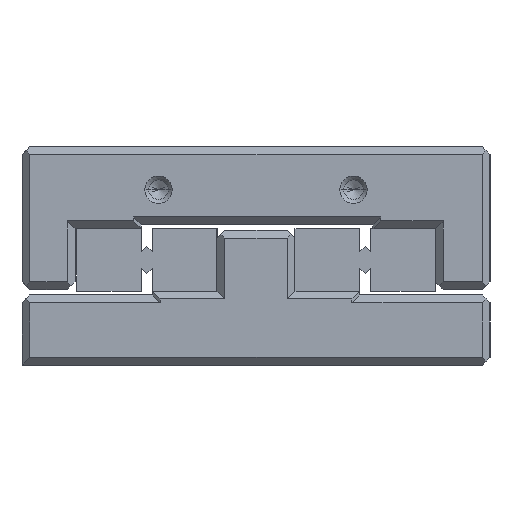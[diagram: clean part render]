
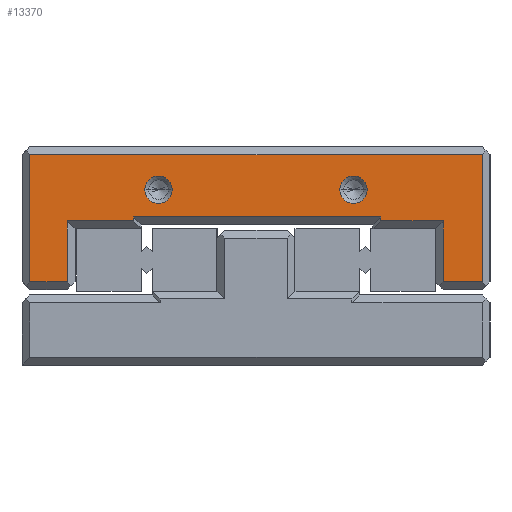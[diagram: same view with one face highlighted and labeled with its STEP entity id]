
A CAD part, left-side view. The second image highlights one B-rep face of the part: STEP entity #13370.
In plain terms, the highlighted planar face has unit normal (-1, 0, 0).
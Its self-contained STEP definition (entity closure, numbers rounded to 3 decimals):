
#10139=CARTESIAN_POINT('',(-77.5,-12.5,5.5));
#10140=DIRECTION('',(1.,0.,0.));
#10141=DIRECTION('',(0.,-1.,0.));
#10142=AXIS2_PLACEMENT_3D('',#10139,#10140,#10141);
#10144=CARTESIAN_POINT('',(-77.5,-12.5,5.5));
#10145=DIRECTION('',(1.,0.,0.));
#10146=DIRECTION('',(0.,1.,0.));
#10147=AXIS2_PLACEMENT_3D('',#10144,#10145,#10146);
#10149=CARTESIAN_POINT('',(-77.5,12.5,5.5));
#10150=DIRECTION('',(1.,0.,0.));
#10151=DIRECTION('',(0.,-1.,0.));
#10152=AXIS2_PLACEMENT_3D('',#10149,#10150,#10151);
#10154=CARTESIAN_POINT('',(-77.5,12.5,5.5));
#10155=DIRECTION('',(1.,0.,0.));
#10156=DIRECTION('',(0.,1.,0.));
#10157=AXIS2_PLACEMENT_3D('',#10154,#10155,#10156);
#10159=DIRECTION('',(0.,0.,-1.));
#10160=VECTOR('',#10159,7.8);
#10161=CARTESIAN_POINT('',(-77.5,-24.2,17.3));
#10162=LINE('',#10161,#10160);
#10163=DIRECTION('',(0.,-1.,0.));
#10164=VECTOR('',#10163,4.8);
#10165=CARTESIAN_POINT('',(-77.5,-24.2,17.3));
#10166=LINE('',#10165,#10164);
#10167=DIRECTION('',(0.,0.,-1.));
#10168=VECTOR('',#10167,16.3);
#10169=CARTESIAN_POINT('',(-77.5,-29.,17.3));
#10170=LINE('',#10169,#10168);
#10171=DIRECTION('',(0.,1.,0.));
#10172=VECTOR('',#10171,58.);
#10173=CARTESIAN_POINT('',(-77.5,-29.,1.));
#10174=LINE('',#10173,#10172);
#10175=DIRECTION('',(0.,0.,-1.));
#10176=VECTOR('',#10175,16.3);
#10177=CARTESIAN_POINT('',(-77.5,29.,17.3));
#10178=LINE('',#10177,#10176);
#10179=DIRECTION('',(0.,-1.,0.));
#10180=VECTOR('',#10179,5.);
#10181=CARTESIAN_POINT('',(-77.5,29.,17.3));
#10182=LINE('',#10181,#10180);
#10183=DIRECTION('',(0.,0.,1.));
#10184=VECTOR('',#10183,7.8);
#10185=CARTESIAN_POINT('',(-77.5,24.,9.5));
#10186=LINE('',#10185,#10184);
#10187=DIRECTION('',(0.,1.,0.));
#10188=VECTOR('',#10187,8.);
#10189=CARTESIAN_POINT('',(-77.5,16.,9.5));
#10190=LINE('',#10189,#10188);
#10191=DIRECTION('',(0.,0.,1.));
#10192=VECTOR('',#10191,0.5);
#10193=CARTESIAN_POINT('',(-77.5,16.,9.));
#10194=LINE('',#10193,#10192);
#10195=DIRECTION('',(0.,1.,0.));
#10196=VECTOR('',#10195,31.7);
#10197=CARTESIAN_POINT('',(-77.5,-15.7,9.));
#10198=LINE('',#10197,#10196);
#10199=DIRECTION('',(0.,0.,-1.));
#10200=VECTOR('',#10199,0.5);
#10201=CARTESIAN_POINT('',(-77.5,-15.7,9.5));
#10202=LINE('',#10201,#10200);
#10203=DIRECTION('',(0.,1.,0.));
#10204=VECTOR('',#10203,8.5);
#10205=CARTESIAN_POINT('',(-77.5,-24.2,9.5));
#10206=LINE('',#10205,#10204);
#11923=CARTESIAN_POINT('',(-77.5,-14.25,5.5));
#11924=CARTESIAN_POINT('',(-77.5,-10.75,5.5));
#11925=VERTEX_POINT('',#11923);
#11926=VERTEX_POINT('',#11924);
#11931=CARTESIAN_POINT('',(-77.5,-29.,1.));
#11932=CARTESIAN_POINT('',(-77.5,29.,1.));
#11933=VERTEX_POINT('',#11931);
#11934=VERTEX_POINT('',#11932);
#11947=CARTESIAN_POINT('',(-77.5,-29.,17.3));
#11948=VERTEX_POINT('',#11947);
#11969=CARTESIAN_POINT('',(-77.5,29.,17.3));
#11970=VERTEX_POINT('',#11969);
#12053=CARTESIAN_POINT('',(-77.5,10.75,5.5));
#12054=CARTESIAN_POINT('',(-77.5,14.25,5.5));
#12055=VERTEX_POINT('',#12053);
#12056=VERTEX_POINT('',#12054);
#12205=CARTESIAN_POINT('',(-77.5,-24.2,17.3));
#12206=VERTEX_POINT('',#12205);
#12207=CARTESIAN_POINT('',(-77.5,-24.2,9.5));
#12208=VERTEX_POINT('',#12207);
#12213=CARTESIAN_POINT('',(-77.5,-15.7,9.5));
#12214=VERTEX_POINT('',#12213);
#12217=CARTESIAN_POINT('',(-77.5,-15.7,9.));
#12218=VERTEX_POINT('',#12217);
#12219=CARTESIAN_POINT('',(-77.5,16.,9.));
#12220=VERTEX_POINT('',#12219);
#12223=CARTESIAN_POINT('',(-77.5,16.,9.5));
#12224=VERTEX_POINT('',#12223);
#12227=CARTESIAN_POINT('',(-77.5,24.,9.5));
#12228=VERTEX_POINT('',#12227);
#12231=CARTESIAN_POINT('',(-77.5,24.,17.3));
#12232=VERTEX_POINT('',#12231);
#13328=CARTESIAN_POINT('',(-77.5,30.,0.));
#13329=DIRECTION('',(-1.,0.,0.));
#13330=DIRECTION('',(0.,-1.,0.));
#13331=AXIS2_PLACEMENT_3D('',#13328,#13329,#13330);
#13332=PLANE('',#13331);
#13334=ORIENTED_EDGE('',*,*,#13333,.F.);
#13336=ORIENTED_EDGE('',*,*,#13335,.T.);
#13338=ORIENTED_EDGE('',*,*,#13337,.T.);
#13339=ORIENTED_EDGE('',*,*,#13315,.T.);
#13341=ORIENTED_EDGE('',*,*,#13340,.F.);
#13343=ORIENTED_EDGE('',*,*,#13342,.T.);
#13345=ORIENTED_EDGE('',*,*,#13344,.F.);
#13347=ORIENTED_EDGE('',*,*,#13346,.F.);
#13349=ORIENTED_EDGE('',*,*,#13348,.F.);
#13351=ORIENTED_EDGE('',*,*,#13350,.F.);
#13353=ORIENTED_EDGE('',*,*,#13352,.F.);
#13355=ORIENTED_EDGE('',*,*,#13354,.F.);
#13356=EDGE_LOOP('',(#13334,#13336,#13338,#13339,#13341,#13343,#13345,#13347,
#13349,#13351,#13353,#13355));
#13357=FACE_OUTER_BOUND('',#13356,.F.);
#13359=ORIENTED_EDGE('',*,*,#13358,.F.);
#13361=ORIENTED_EDGE('',*,*,#13360,.F.);
#13362=EDGE_LOOP('',(#13359,#13361));
#13363=FACE_BOUND('',#13362,.F.);
#13365=ORIENTED_EDGE('',*,*,#13364,.F.);
#13367=ORIENTED_EDGE('',*,*,#13366,.F.);
#13368=EDGE_LOOP('',(#13365,#13367));
#13369=FACE_BOUND('',#13368,.F.);
#13370=ADVANCED_FACE('',(#13357,#13363,#13369),#13332,.T.);
#10143=CIRCLE('',#10142,1.75);
#10148=CIRCLE('',#10147,1.75);
#10153=CIRCLE('',#10152,1.75);
#10158=CIRCLE('',#10157,1.75);
#13315=EDGE_CURVE('',#11933,#11934,#10174,.T.);
#13333=EDGE_CURVE('',#12206,#12208,#10162,.T.);
#13335=EDGE_CURVE('',#12206,#11948,#10166,.T.);
#13337=EDGE_CURVE('',#11948,#11933,#10170,.T.);
#13340=EDGE_CURVE('',#11970,#11934,#10178,.T.);
#13342=EDGE_CURVE('',#11970,#12232,#10182,.T.);
#13344=EDGE_CURVE('',#12228,#12232,#10186,.T.);
#13346=EDGE_CURVE('',#12224,#12228,#10190,.T.);
#13348=EDGE_CURVE('',#12220,#12224,#10194,.T.);
#13350=EDGE_CURVE('',#12218,#12220,#10198,.T.);
#13352=EDGE_CURVE('',#12214,#12218,#10202,.T.);
#13354=EDGE_CURVE('',#12208,#12214,#10206,.T.);
#13358=EDGE_CURVE('',#12055,#12056,#10153,.T.);
#13360=EDGE_CURVE('',#12056,#12055,#10158,.T.);
#13364=EDGE_CURVE('',#11925,#11926,#10143,.T.);
#13366=EDGE_CURVE('',#11926,#11925,#10148,.T.);
